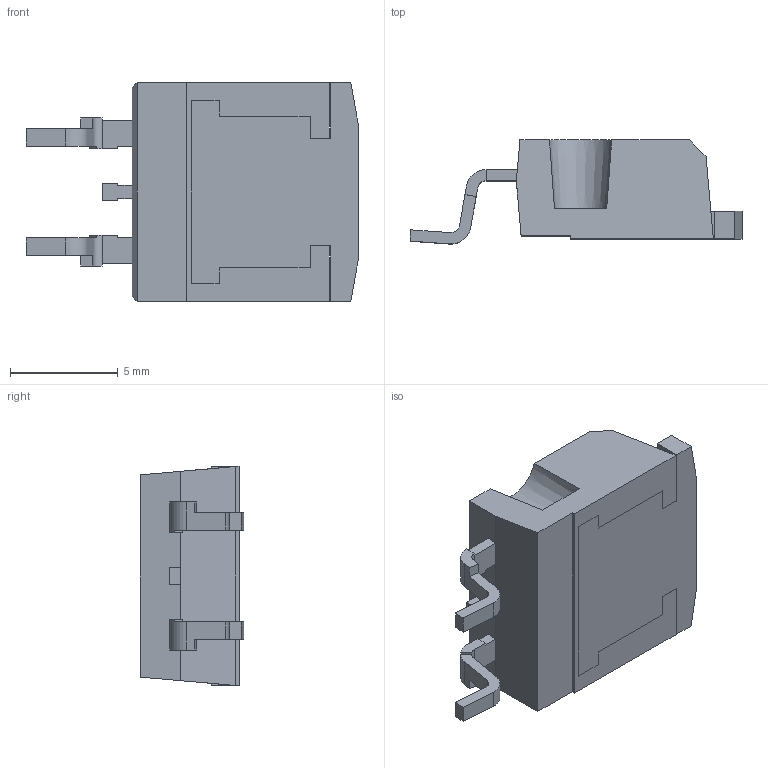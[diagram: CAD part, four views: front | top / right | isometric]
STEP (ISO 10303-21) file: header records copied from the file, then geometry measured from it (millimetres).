
FILE_DESCRIPTION (( 'STEP AP214' ), '1' );
FILE_NAME ('MJB44H11T4-A.STEP', '2025-08-11T20:03:36', ( '' ), ( '' ), 'SwSTEP 2.0', 'SolidWorks 2021', '' );
FILE_SCHEMA (( 'AUTOMOTIVE_DESIGN' ));
Length unit declared in the file: millimetre
Products named in the file (1): MJB44H11T4-A
Bounding box: 15.43 x 4.83 x 10.2 mm (x, y, z)
Volume: 403.4 mm3; surface area: 591.8 mm2
Topology: 5 solids, 5 shells, 104 faces, 275 edges, 182 vertices
Faces by surface type: plane 91, cylinder 10, cone 3
Entity records: 3251 total; most frequent: CARTESIAN_POINT 574, ORIENTED_EDGE 550, DIRECTION 511, EDGE_CURVE 275, VECTOR 241, LINE 241, VERTEX_POINT 182, AXIS2_PLACEMENT_3D 135
